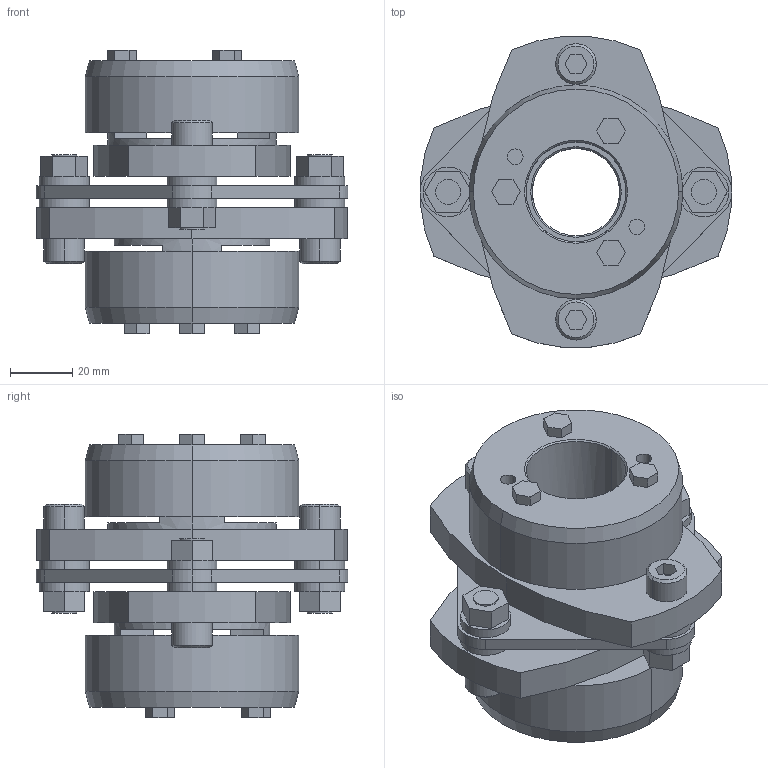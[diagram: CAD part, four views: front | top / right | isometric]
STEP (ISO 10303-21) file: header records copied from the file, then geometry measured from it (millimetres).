
FILE_DESCRIPTION((''),'2;1');
FILE_NAME('LCS-100T7-28×32.stp','2015-11-02T07:56:29',(''),(''),'AutoCAD STEP 2000i','AutoCAD 2000i',', , ');
FILE_SCHEMA(('CONFIG_CONTROL_DESIGN'));
Length unit declared in the file: millimetre
Products named in the file (9): LCS-100T7-28×30; 忣兜1; LC100T7-T028-1; LC100T7-T030; LC100T7-T025-1; LC100T7-T025; LC100T7-T022-1; LC100T7-T022; LCS100-ITA
Assembly tree (8 placements, depth 2):
  LCS-100T7-28×30
    忣兜1
    LC100T7-T028-1
    LC100T7-T030
    LC100T7-T025-1
    LC100T7-T025
    LC100T7-T022-1
    LC100T7-T022
    LCS100-ITA
Bounding box: 100 x 99.93 x 91 mm (x, y, z)
Volume: 265765.7 mm3; surface area: 65077.2 mm2
Topology: 1 solids, 1 shells, 232 faces, 568 edges, 372 vertices
Faces by surface type: plane 132, cylinder 80, cone 20
Entity records: 7091 total; most frequent: DIRECTION 1246, CARTESIAN_POINT 1181, ORIENTED_EDGE 1136, EDGE_CURVE 568, AXIS2_PLACEMENT_3D 437, VERTEX_POINT 372, VECTOR 372, LINE 372
